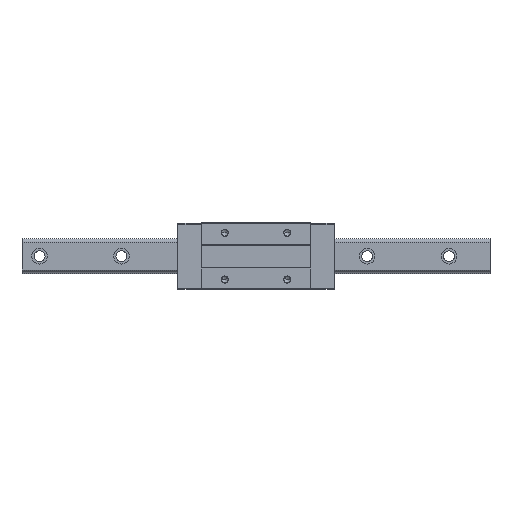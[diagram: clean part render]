
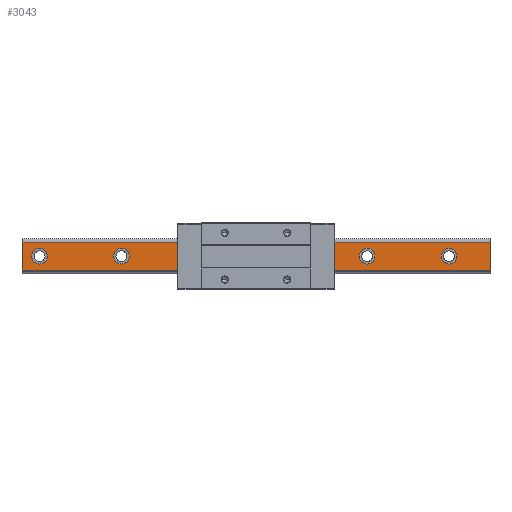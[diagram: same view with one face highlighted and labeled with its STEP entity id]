
A CAD part, top view. The second image highlights one B-rep face of the part: STEP entity #3043.
In plain terms, the highlighted planar face has unit normal (0, 0, 1).
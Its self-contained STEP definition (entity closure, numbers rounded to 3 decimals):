
#3 = VERTEX_POINT ( 'NONE', #3372 ) ;
#32 = FACE_BOUND ( 'NONE', #5590, .T. ) ;
#107 = VERTEX_POINT ( 'NONE', #336 ) ;
#165 = EDGE_LOOP ( 'NONE', ( #4978, #2624 ) ) ;
#200 = CARTESIAN_POINT ( 'NONE',  ( 247.5, 0., 32. ) ) ;
#203 = EDGE_CURVE ( 'NONE', #2173, #2826, #2602, .T. ) ;
#223 = EDGE_LOOP ( 'NONE', ( #4922, #832 ) ) ;
#335 = CARTESIAN_POINT ( 'NONE',  ( 300., -17.696, 32. ) ) ;
#336 = CARTESIAN_POINT ( 'NONE',  ( 27.5, 0., 32. ) ) ;
#365 = VERTEX_POINT ( 'NONE', #5293 ) ;
#451 = CARTESIAN_POINT ( 'NONE',  ( 142.5, 0., 32. ) ) ;
#501 = DIRECTION ( 'NONE',  ( 0., 0., 1. ) ) ;
#504 = VERTEX_POINT ( 'NONE', #3921 ) ;
#522 = DIRECTION ( 'NONE',  ( 0., 0., 1. ) ) ;
#542 = EDGE_CURVE ( 'NONE', #1523, #3473, #4719, .T. ) ;
#552 = DIRECTION ( 'NONE',  ( 0., -1., 0. ) ) ;
#561 = EDGE_LOOP ( 'NONE', ( #1789, #4240, #5232, #2410 ) ) ;
#595 = DIRECTION ( 'NONE',  ( 0., 0., 1. ) ) ;
#612 = DIRECTION ( 'NONE',  ( 0., 0., 1. ) ) ;
#688 = EDGE_LOOP ( 'NONE', ( #2681, #4424 ) ) ;
#742 = DIRECTION ( 'NONE',  ( 0., 0., 1. ) ) ;
#744 = DIRECTION ( 'NONE',  ( 0., 0., 1. ) ) ;
#752 = VECTOR ( 'NONE', #1425, 1000. ) ;
#786 = LINE ( 'NONE', #335, #2966 ) ;
#801 = AXIS2_PLACEMENT_3D ( 'NONE', #3313, #2491, #4292 ) ;
#824 = CARTESIAN_POINT ( 'NONE',  ( 142.5, 0., 32. ) ) ;
#832 = ORIENTED_EDGE ( 'NONE', *, *, #2196, .F. ) ;
#891 = EDGE_CURVE ( 'NONE', #2826, #1380, #3993, .T. ) ;
#894 = EDGE_CURVE ( 'NONE', #4951, #1075, #1852, .T. ) ;
#967 = CARTESIAN_POINT ( 'NONE',  ( -172.5, 0., 32. ) ) ;
#1001 = AXIS2_PLACEMENT_3D ( 'NONE', #967, #595, #2337 ) ;
#1033 = CIRCLE ( 'NONE', #3488, 10. ) ;
#1067 = CARTESIAN_POINT ( 'NONE',  ( 37.5, 0., 32. ) ) ;
#1075 = VERTEX_POINT ( 'NONE', #5471 ) ;
#1099 = EDGE_CURVE ( 'NONE', #3, #4146, #2138, .T. ) ;
#1189 = DIRECTION ( 'NONE',  ( 1., 0., 0. ) ) ;
#1380 = VERTEX_POINT ( 'NONE', #1713 ) ;
#1425 = DIRECTION ( 'NONE',  ( -1., 0., 0. ) ) ;
#1437 = DIRECTION ( 'NONE',  ( 0., 0., 1. ) ) ;
#1523 = VERTEX_POINT ( 'NONE', #3298 ) ;
#1544 = DIRECTION ( 'NONE',  ( 0., 0., 1. ) ) ;
#1617 = EDGE_CURVE ( 'NONE', #3257, #3825, #2589, .T. ) ;
#1713 = CARTESIAN_POINT ( 'NONE',  ( -300., -17.696, 32. ) ) ;
#1755 = FACE_BOUND ( 'NONE', #5490, .T. ) ;
#1789 = ORIENTED_EDGE ( 'NONE', *, *, #891, .T. ) ;
#1852 = CIRCLE ( 'NONE', #5029, 10. ) ;
#1921 = DIRECTION ( 'NONE',  ( 0., 0., 1. ) ) ;
#2019 = CARTESIAN_POINT ( 'NONE',  ( -67.5, 0., 32. ) ) ;
#2041 = CARTESIAN_POINT ( 'NONE',  ( 300., 17.696, 32. ) ) ;
#2084 = EDGE_CURVE ( 'NONE', #3825, #3257, #3058, .T. ) ;
#2108 = CARTESIAN_POINT ( 'NONE',  ( 152.5, 0., 32. ) ) ;
#2138 = CIRCLE ( 'NONE', #2320, 10. ) ;
#2167 = AXIS2_PLACEMENT_3D ( 'NONE', #5468, #4211, #5494 ) ;
#2173 = VERTEX_POINT ( 'NONE', #2041 ) ;
#2192 = CARTESIAN_POINT ( 'NONE',  ( 300., -17.696, 32. ) ) ;
#2196 = EDGE_CURVE ( 'NONE', #4146, #3, #5413, .T. ) ;
#2286 = EDGE_CURVE ( 'NONE', #3473, #1523, #2976, .T. ) ;
#2320 = AXIS2_PLACEMENT_3D ( 'NONE', #200, #1921, #2550 ) ;
#2337 = DIRECTION ( 'NONE',  ( 1., 0., 0. ) ) ;
#2357 = AXIS2_PLACEMENT_3D ( 'NONE', #2801, #1544, #5459 ) ;
#2364 = CARTESIAN_POINT ( 'NONE',  ( -77.5, 0., 32. ) ) ;
#2410 = ORIENTED_EDGE ( 'NONE', *, *, #203, .T. ) ;
#2416 = AXIS2_PLACEMENT_3D ( 'NONE', #2019, #744, #1189 ) ;
#2460 = DIRECTION ( 'NONE',  ( 1., 0., 0. ) ) ;
#2491 = DIRECTION ( 'NONE',  ( 0., 0., 1. ) ) ;
#2498 = VERTEX_POINT ( 'NONE', #3136 ) ;
#2504 = ORIENTED_EDGE ( 'NONE', *, *, #4627, .F. ) ;
#2519 = DIRECTION ( 'NONE',  ( 0., -1., 0. ) ) ;
#2544 = CARTESIAN_POINT ( 'NONE',  ( 237.5, 0., 32. ) ) ;
#2550 = DIRECTION ( 'NONE',  ( 1., 0., 0. ) ) ;
#2589 = CIRCLE ( 'NONE', #2416, 10. ) ;
#2602 = LINE ( 'NONE', #3051, #3760 ) ;
#2624 = ORIENTED_EDGE ( 'NONE', *, *, #1617, .F. ) ;
#2627 = DIRECTION ( 'NONE',  ( -1., 0., 0. ) ) ;
#2681 = ORIENTED_EDGE ( 'NONE', *, *, #4944, .F. ) ;
#2703 = CARTESIAN_POINT ( 'NONE',  ( -172.5, 0., 32. ) ) ;
#2785 = CIRCLE ( 'NONE', #801, 10. ) ;
#2801 = CARTESIAN_POINT ( 'NONE',  ( -277.5, 0., 32. ) ) ;
#2826 = VERTEX_POINT ( 'NONE', #2847 ) ;
#2847 = CARTESIAN_POINT ( 'NONE',  ( -300., 17.696, 32. ) ) ;
#2966 = VECTOR ( 'NONE', #2519, 1000. ) ;
#2976 = CIRCLE ( 'NONE', #5417, 10. ) ;
#3012 = FACE_BOUND ( 'NONE', #223, .T. ) ;
#3038 = DIRECTION ( 'NONE',  ( 0., 0., -1. ) ) ;
#3043 = ADVANCED_FACE ( 'NONE', ( #3012, #3469, #32, #4331, #1755, #3981, #3951 ), #3525, .F. ) ;
#3051 = CARTESIAN_POINT ( 'NONE',  ( 300., 17.696, 32. ) ) ;
#3058 = CIRCLE ( 'NONE', #5591, 10. ) ;
#3064 = ORIENTED_EDGE ( 'NONE', *, *, #894, .F. ) ;
#3074 = LINE ( 'NONE', #4794, #752 ) ;
#3087 = DIRECTION ( 'NONE',  ( 1., 0., 0. ) ) ;
#3136 = CARTESIAN_POINT ( 'NONE',  ( -267.5, 0., 32. ) ) ;
#3171 = DIRECTION ( 'NONE',  ( 1., 0., 0. ) ) ;
#3176 = AXIS2_PLACEMENT_3D ( 'NONE', #2192, #3038, #4307 ) ;
#3179 = EDGE_CURVE ( 'NONE', #1075, #4951, #3271, .T. ) ;
#3257 = VERTEX_POINT ( 'NONE', #2364 ) ;
#3271 = CIRCLE ( 'NONE', #1001, 10. ) ;
#3298 = CARTESIAN_POINT ( 'NONE',  ( 132.5, 0., 32. ) ) ;
#3309 = CARTESIAN_POINT ( 'NONE',  ( -182.5, 0., 32. ) ) ;
#3313 = CARTESIAN_POINT ( 'NONE',  ( -277.5, 0., 32. ) ) ;
#3372 = CARTESIAN_POINT ( 'NONE',  ( 257.5, 0., 32. ) ) ;
#3469 = FACE_BOUND ( 'NONE', #4705, .T. ) ;
#3473 = VERTEX_POINT ( 'NONE', #2108 ) ;
#3488 = AXIS2_PLACEMENT_3D ( 'NONE', #5048, #742, #4928 ) ;
#3494 = ORIENTED_EDGE ( 'NONE', *, *, #3179, .F. ) ;
#3525 = PLANE ( 'NONE',  #3176 ) ;
#3529 = AXIS2_PLACEMENT_3D ( 'NONE', #1067, #612, #2460 ) ;
#3703 = CARTESIAN_POINT ( 'NONE',  ( -57.5, 0., 32. ) ) ;
#3760 = VECTOR ( 'NONE', #2627, 1000. ) ;
#3809 = CIRCLE ( 'NONE', #3529, 10. ) ;
#3825 = VERTEX_POINT ( 'NONE', #3703 ) ;
#3921 = CARTESIAN_POINT ( 'NONE',  ( -287.5, 0., 32. ) ) ;
#3951 = FACE_OUTER_BOUND ( 'NONE', #561, .T. ) ;
#3981 = FACE_BOUND ( 'NONE', #688, .T. ) ;
#3989 = CIRCLE ( 'NONE', #2357, 10. ) ;
#3993 = LINE ( 'NONE', #5197, #4927 ) ;
#4035 = CARTESIAN_POINT ( 'NONE',  ( -67.5, 0., 32. ) ) ;
#4072 = CARTESIAN_POINT ( 'NONE',  ( 300., -17.696, 32. ) ) ;
#4100 = EDGE_CURVE ( 'NONE', #504, #2498, #2785, .T. ) ;
#4146 = VERTEX_POINT ( 'NONE', #2544 ) ;
#4149 = EDGE_CURVE ( 'NONE', #2173, #4519, #786, .T. ) ;
#4179 = ORIENTED_EDGE ( 'NONE', *, *, #542, .F. ) ;
#4211 = DIRECTION ( 'NONE',  ( 0., 0., 1. ) ) ;
#4240 = ORIENTED_EDGE ( 'NONE', *, *, #5330, .F. ) ;
#4292 = DIRECTION ( 'NONE',  ( 1., 0., 0. ) ) ;
#4307 = DIRECTION ( 'NONE',  ( -1., 0., 0. ) ) ;
#4331 = FACE_BOUND ( 'NONE', #165, .T. ) ;
#4382 = DIRECTION ( 'NONE',  ( 1., 0., 0. ) ) ;
#4424 = ORIENTED_EDGE ( 'NONE', *, *, #4100, .F. ) ;
#4519 = VERTEX_POINT ( 'NONE', #4072 ) ;
#4627 = EDGE_CURVE ( 'NONE', #107, #365, #1033, .T. ) ;
#4705 = EDGE_LOOP ( 'NONE', ( #5473, #4179 ) ) ;
#4719 = CIRCLE ( 'NONE', #5450, 10. ) ;
#4794 = CARTESIAN_POINT ( 'NONE',  ( 300., -17.696, 32. ) ) ;
#4810 = DIRECTION ( 'NONE',  ( 0., 0., 1. ) ) ;
#4922 = ORIENTED_EDGE ( 'NONE', *, *, #1099, .F. ) ;
#4927 = VECTOR ( 'NONE', #552, 1000. ) ;
#4928 = DIRECTION ( 'NONE',  ( 1., 0., 0. ) ) ;
#4944 = EDGE_CURVE ( 'NONE', #2498, #504, #3989, .T. ) ;
#4951 = VERTEX_POINT ( 'NONE', #3309 ) ;
#4978 = ORIENTED_EDGE ( 'NONE', *, *, #2084, .F. ) ;
#4985 = EDGE_CURVE ( 'NONE', #365, #107, #3809, .T. ) ;
#5013 = ORIENTED_EDGE ( 'NONE', *, *, #4985, .F. ) ;
#5029 = AXIS2_PLACEMENT_3D ( 'NONE', #2703, #522, #4382 ) ;
#5048 = CARTESIAN_POINT ( 'NONE',  ( 37.5, 0., 32. ) ) ;
#5197 = CARTESIAN_POINT ( 'NONE',  ( -300., -17.696, 32. ) ) ;
#5207 = DIRECTION ( 'NONE',  ( 1., 0., 0. ) ) ;
#5232 = ORIENTED_EDGE ( 'NONE', *, *, #4149, .F. ) ;
#5293 = CARTESIAN_POINT ( 'NONE',  ( 47.5, 0., 32. ) ) ;
#5330 = EDGE_CURVE ( 'NONE', #4519, #1380, #3074, .T. ) ;
#5413 = CIRCLE ( 'NONE', #2167, 10. ) ;
#5417 = AXIS2_PLACEMENT_3D ( 'NONE', #451, #501, #5207 ) ;
#5450 = AXIS2_PLACEMENT_3D ( 'NONE', #824, #4810, #3087 ) ;
#5459 = DIRECTION ( 'NONE',  ( 1., 0., 0. ) ) ;
#5468 = CARTESIAN_POINT ( 'NONE',  ( 247.5, 0., 32. ) ) ;
#5471 = CARTESIAN_POINT ( 'NONE',  ( -162.5, 0., 32. ) ) ;
#5473 = ORIENTED_EDGE ( 'NONE', *, *, #2286, .F. ) ;
#5490 = EDGE_LOOP ( 'NONE', ( #3494, #3064 ) ) ;
#5494 = DIRECTION ( 'NONE',  ( 1., 0., 0. ) ) ;
#5590 = EDGE_LOOP ( 'NONE', ( #5013, #2504 ) ) ;
#5591 = AXIS2_PLACEMENT_3D ( 'NONE', #4035, #1437, #3171 ) ;
